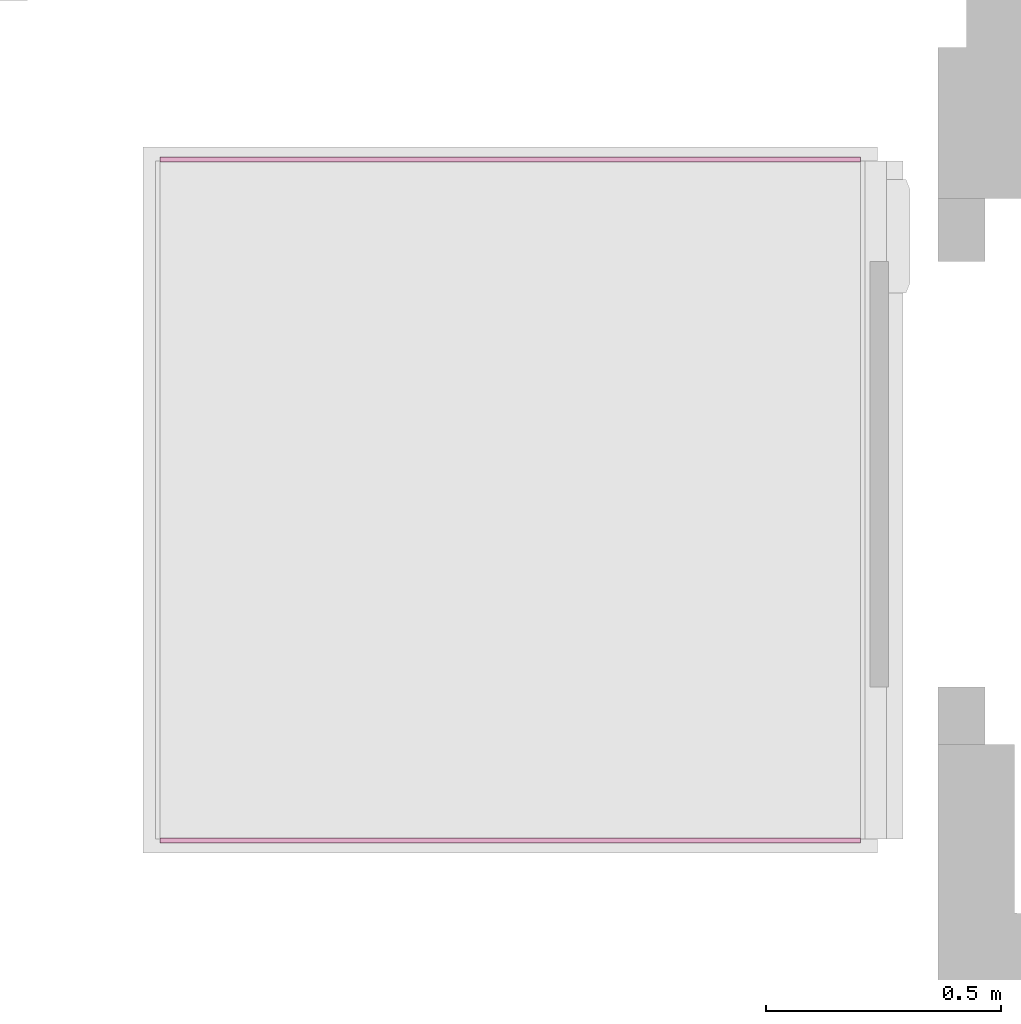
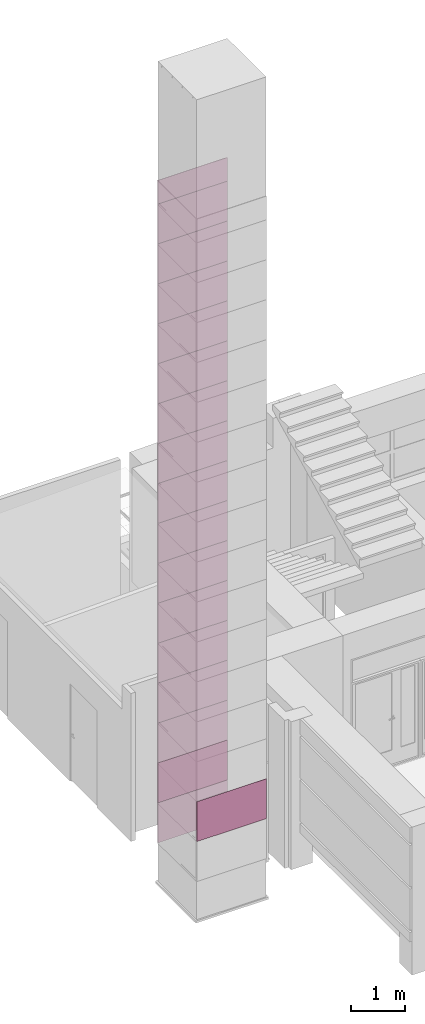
# One storey, part 48 of 49: 19 transport elements.
"""IFC2X3 building model written with IfcOpenShell, lengths in millimetres."""

from ifc_helpers import new_model, entity, si_unit, converted_unit, derived_unit, direction, frame, origin, origin_2d_with_axis, place, context, subcontext, project, spatial, polyline, rectangle, outline, extrude, source, transform, mapped, material, material_list, type_object, type_shapes, element, save


model = new_model("IFC2X3")

# Units and contexts
model_context = context("Model", 3, precision=0.01, world=origin(), true_north=direction((6.12303176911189e-17, 1.0)))
body_context = subcontext(model_context, "Body", "Model", "MODEL_VIEW")
ifc_project = project(units=[si_unit("LENGTHUNIT", "METRE", prefix="MILLI"), si_unit("AREAUNIT", "SQUARE_METRE"), si_unit("VOLUMEUNIT", "CUBIC_METRE"), converted_unit("PLANEANGLEUNIT", "DEGREE", entity("IfcRatioMeasure", 0.0174532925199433), si_unit("PLANEANGLEUNIT", "RADIAN"), dimensions=[0, 0, 0, 0, 0, 0, 0]), si_unit("MASSUNIT", "GRAM", prefix="KILO"), derived_unit("MASSDENSITYUNIT", [(si_unit("MASSUNIT", "GRAM", prefix="KILO"), 1), (si_unit("LENGTHUNIT", "METRE"), -3)]), si_unit("TIMEUNIT", "SECOND"), si_unit("FREQUENCYUNIT", "HERTZ"), si_unit("THERMODYNAMICTEMPERATUREUNIT", "DEGREE_CELSIUS"), derived_unit("THERMALTRANSMITTANCEUNIT", [(si_unit("MASSUNIT", "GRAM", prefix="KILO"), 1), (si_unit("THERMODYNAMICTEMPERATUREUNIT", "KELVIN"), -1), (si_unit("TIMEUNIT", "SECOND"), -3)]), derived_unit("VOLUMETRICFLOWRATEUNIT", [(si_unit("LENGTHUNIT", "METRE"), 3), (si_unit("TIMEUNIT", "SECOND"), -1)]), si_unit("ELECTRICCURRENTUNIT", "AMPERE"), si_unit("ELECTRICVOLTAGEUNIT", "VOLT"), si_unit("POWERUNIT", "WATT"), si_unit("FORCEUNIT", "NEWTON", prefix="KILO"), si_unit("ILLUMINANCEUNIT", "LUX"), si_unit("LUMINOUSFLUXUNIT", "LUMEN"), si_unit("LUMINOUSINTENSITYUNIT", "CANDELA"), derived_unit("USERDEFINED", [(si_unit("MASSUNIT", "GRAM", prefix="KILO"), -1), (si_unit("LENGTHUNIT", "METRE"), -2), (si_unit("TIMEUNIT", "SECOND"), 3), (si_unit("LUMINOUSFLUXUNIT", "LUMEN"), 1)]), derived_unit("LINEARVELOCITYUNIT", [(si_unit("LENGTHUNIT", "METRE"), 1), (si_unit("TIMEUNIT", "SECOND"), -1)]), si_unit("PRESSUREUNIT", "PASCAL"), derived_unit("USERDEFINED", [(si_unit("LENGTHUNIT", "METRE"), -2), (si_unit("MASSUNIT", "GRAM", prefix="KILO"), 1), (si_unit("TIMEUNIT", "SECOND"), -2)])], contexts=[model_context])

# Site, building, storey
site_placement = place(None, frame((-151.875543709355, 2715.0, 0.0)))
site = spatial("IfcSite", under=ifc_project, at=site_placement, Name="Surface", CompositionType="ELEMENT")
building_placement = place(site_placement, origin())
building = spatial("IfcBuilding", under=site, at=building_placement, CompositionType="ELEMENT")
storey_placement = place(building_placement, origin())
storey = spatial("IfcBuildingStorey", under=building, at=storey_placement, Name="1 korrus", CompositionType="ELEMENT", Elevation=3.0969999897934e-10)

# Transport elements
ifc_material_1 = material(Name="Kalea_RAL_9016_Traffic White")
ifc_material_2 = material(Name="Kalea_glass")
ifc_material_list_1 = material_list([ifc_material_1, ifc_material_2])
ifc_material_list_2 = material_list([ifc_material_1, ifc_material_2])
transport_element_type_1 = type_object("IfcTransportElementType", Name="1100x1467 - Standard Height (904 mm)", PredefinedType="NOTDEFINED", material=ifc_material_list_2)
shared_shape_1 = source(origin(), body_context, "Body", "SweptSolid", [
    extrude(outline(polyline([(-452.0, -743.5), (452.0, -743.5), (452.0, 743.5), (-452.0, 743.5), (-452.0, -743.5)]), holes=[polyline([(-402.0, 693.499999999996), (402.0, 693.5), (402.0, -693.50000000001), (-402.0, -693.50000000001), (-402.0, 693.499999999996)])]), frame((743.5, -10.0, 452.0), z_axis=(0.0, 1.0, 0.0), x_axis=(0.0, 0.0, -1.0)), (0.0, 0.0, 1.0), 9.99999999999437),
    extrude(rectangle(XDim=9.99999999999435, YDim=1387.00000000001, at=origin_2d_with_axis()), frame((743.500000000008, -5.0, 50.0), z_axis=(0.0, 0.0, 1.0), x_axis=(0.0, 1.0, 0.0)), (0.0, 0.0, 1.0), 803.999999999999),
])
type_shapes(transport_element_type_1, [shared_shape_1])
transport_element_1_placement = place(storey_placement, frame((-706.883383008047, 6007.97183876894, 949.0), z_axis=(0.0, 0.0, 1.0), x_axis=(-1.0, 0.0, 0.0)))
element("IfcTransportElement", 1, at=transport_element_1_placement, inside=storey, type_object=transport_element_type_1, material=ifc_material_list_1, Name="B-side_Glass Panel:1100x1467 - Standard Height (904 mm)", ObjectType="1100x1467 - Standard Height (904 mm)", CapacityByNumber=0.0, CapacityByWeight=0.0, OperationType="NOTDEFINED", context=body_context, shape_type="MappedRepresentation", body=[
    mapped(shared_shape_1, transform((0.0, 0.0, 0.0), scale=1.0)),
])
ifc_material_list_3 = material_list([ifc_material_1, ifc_material_2])
ifc_material_list_4 = material_list([ifc_material_1, ifc_material_2])
transport_element_type_2 = type_object("IfcTransportElementType", Name="1100x1467 - Standard Height (904 mm)", PredefinedType="NOTDEFINED", material=ifc_material_list_4)
shared_shape_2 = source(origin(), body_context, "Body", "SweptSolid", [
    extrude(outline(polyline([(-452.0, -743.5), (452.0, -743.5), (452.0, 743.5), (-452.0, 743.5), (-452.0, -743.5)]), holes=[polyline([(-402.0, 693.499999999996), (402.0, 693.5), (402.0, -693.50000000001), (-402.0, -693.50000000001), (-402.0, 693.499999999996)])]), frame((743.5, 0.0, 452.0), z_axis=(0.0, 1.0, 0.0), x_axis=(0.0, 0.0, -1.0)), (0.0, 0.0, 1.0), 9.99999999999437),
    extrude(rectangle(XDim=1387.00000000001, YDim=9.99999999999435, at=origin_2d_with_axis()), frame((743.500000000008, 5.0, 50.0), z_axis=(0.0, 0.0, 1.0), x_axis=(-1.0, 0.0, 0.0)), (0.0, 0.0, 1.0), 803.999999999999),
])
type_shapes(transport_element_type_2, [shared_shape_2])
transport_element_2_placement = place(storey_placement, frame((-706.883383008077, 4572.02816123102, 949.0), z_axis=(0.0, 0.0, 1.0), x_axis=(-1.0, 0.0, 0.0)))
element("IfcTransportElement", 2, at=transport_element_2_placement, inside=storey, type_object=transport_element_type_2, material=ifc_material_list_3, Name="B-side_Glass Panel:1100x1467 - Standard Height (904 mm)", ObjectType="1100x1467 - Standard Height (904 mm)", CapacityByNumber=0.0, CapacityByWeight=0.0, OperationType="NOTDEFINED", context=body_context, shape_type="MappedRepresentation", body=[
    mapped(shared_shape_2, transform((0.0, 0.0, 0.0), scale=1.0)),
])
ifc_material_list_5 = material_list([ifc_material_1, ifc_material_2])
transport_element_3_placement = place(storey_placement, frame((-2193.88338300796, 6007.97183876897, 8181.0)))
element("IfcTransportElement", 3, at=transport_element_3_placement, inside=storey, type_object=transport_element_type_2, material=ifc_material_list_5, Name="B-side_Glass Panel:1100x1467 - Standard Height (904 mm)", ObjectType="1100x1467 - Standard Height (904 mm)", CapacityByNumber=0.0, CapacityByWeight=0.0, OperationType="NOTDEFINED", context=body_context, shape_type="MappedRepresentation", body=[
    mapped(shared_shape_2, transform((0.0, 0.0, 0.0), scale=1.0)),
])
ifc_material_list_6 = material_list([ifc_material_1, ifc_material_2])
transport_element_4_placement = place(storey_placement, frame((-2193.88338300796, 6007.97183876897, 9085.0)))
element("IfcTransportElement", 4, at=transport_element_4_placement, inside=storey, type_object=transport_element_type_2, material=ifc_material_list_6, Name="B-side_Glass Panel:1100x1467 - Standard Height (904 mm)", ObjectType="1100x1467 - Standard Height (904 mm)", CapacityByNumber=0.0, CapacityByWeight=0.0, OperationType="NOTDEFINED", context=body_context, shape_type="MappedRepresentation", body=[
    mapped(shared_shape_2, transform((0.0, 0.0, 0.0), scale=1.0)),
])
ifc_material_list_7 = material_list([ifc_material_1, ifc_material_2])
transport_element_5_placement = place(storey_placement, frame((-2193.88338300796, 6007.97183876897, 9989.0)))
element("IfcTransportElement", 5, at=transport_element_5_placement, inside=storey, type_object=transport_element_type_2, material=ifc_material_list_7, Name="B-side_Glass Panel:1100x1467 - Standard Height (904 mm)", ObjectType="1100x1467 - Standard Height (904 mm)", CapacityByNumber=0.0, CapacityByWeight=0.0, OperationType="NOTDEFINED", context=body_context, shape_type="MappedRepresentation", body=[
    mapped(shared_shape_2, transform((0.0, 0.0, 0.0), scale=1.0)),
])
ifc_material_list_8 = material_list([ifc_material_1, ifc_material_2])
transport_element_6_placement = place(storey_placement, frame((-2193.88338300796, 6007.97183876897, 10893.0)))
element("IfcTransportElement", 6, at=transport_element_6_placement, inside=storey, type_object=transport_element_type_2, material=ifc_material_list_8, Name="B-side_Glass Panel:1100x1467 - Standard Height (904 mm)", ObjectType="1100x1467 - Standard Height (904 mm)", CapacityByNumber=0.0, CapacityByWeight=0.0, OperationType="NOTDEFINED", context=body_context, shape_type="MappedRepresentation", body=[
    mapped(shared_shape_2, transform((0.0, 0.0, 0.0), scale=1.0)),
])
ifc_material_list_9 = material_list([ifc_material_1, ifc_material_2])
transport_element_7_placement = place(storey_placement, frame((-2193.88338300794, 6007.97183876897, 11797.0)))
element("IfcTransportElement", 7, at=transport_element_7_placement, inside=storey, type_object=transport_element_type_2, material=ifc_material_list_9, Name="B-side_Glass Panel:1100x1467 - Standard Height (904 mm)", ObjectType="1100x1467 - Standard Height (904 mm)", CapacityByNumber=0.0, CapacityByWeight=0.0, OperationType="NOTDEFINED", context=body_context, shape_type="MappedRepresentation", body=[
    mapped(shared_shape_2, transform((0.0, 0.0, 0.0), scale=1.0)),
])
ifc_material_list_10 = material_list([ifc_material_1, ifc_material_2])
transport_element_8_placement = place(storey_placement, frame((-2193.88338300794, 6007.97183876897, 12701.0)))
element("IfcTransportElement", 8, at=transport_element_8_placement, inside=storey, type_object=transport_element_type_2, material=ifc_material_list_10, Name="B-side_Glass Panel:1100x1467 - Standard Height (904 mm)", ObjectType="1100x1467 - Standard Height (904 mm)", CapacityByNumber=0.0, CapacityByWeight=0.0, OperationType="NOTDEFINED", context=body_context, shape_type="MappedRepresentation", body=[
    mapped(shared_shape_2, transform((0.0, 0.0, 0.0), scale=1.0)),
])
ifc_material_list_11 = material_list([ifc_material_1, ifc_material_2])
transport_element_9_placement = place(storey_placement, frame((-2193.88338300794, 6007.97183876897, 13605.0)))
element("IfcTransportElement", 9, at=transport_element_9_placement, inside=storey, type_object=transport_element_type_2, material=ifc_material_list_11, Name="B-side_Glass Panel:1100x1467 - Standard Height (904 mm)", ObjectType="1100x1467 - Standard Height (904 mm)", CapacityByNumber=0.0, CapacityByWeight=0.0, OperationType="NOTDEFINED", context=body_context, shape_type="MappedRepresentation", body=[
    mapped(shared_shape_2, transform((0.0, 0.0, 0.0), scale=1.0)),
])
ifc_material_list_12 = material_list([ifc_material_1, ifc_material_2])
transport_element_10_placement = place(storey_placement, frame((-2193.88338300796, 6007.97183876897, 45.0)))
element("IfcTransportElement", 10, at=transport_element_10_placement, inside=storey, type_object=transport_element_type_2, material=ifc_material_list_12, Name="B-side_Glass Panel:1100x1467 - Standard Height (904 mm)", ObjectType="1100x1467 - Standard Height (904 mm)", CapacityByNumber=0.0, CapacityByWeight=0.0, OperationType="NOTDEFINED", context=body_context, shape_type="MappedRepresentation", body=[
    mapped(shared_shape_2, transform((0.0, 0.0, 0.0), scale=1.0)),
])
ifc_material_list_13 = material_list([ifc_material_1, ifc_material_2])
transport_element_11_placement = place(storey_placement, frame((-2193.88338300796, 6007.97183876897, 949.0)))
element("IfcTransportElement", 11, at=transport_element_11_placement, inside=storey, type_object=transport_element_type_2, material=ifc_material_list_13, Name="B-side_Glass Panel:1100x1467 - Standard Height (904 mm)", ObjectType="1100x1467 - Standard Height (904 mm)", CapacityByNumber=0.0, CapacityByWeight=0.0, OperationType="NOTDEFINED", context=body_context, shape_type="MappedRepresentation", body=[
    mapped(shared_shape_2, transform((0.0, 0.0, 0.0), scale=1.0)),
])
ifc_material_list_14 = material_list([ifc_material_1, ifc_material_2])
transport_element_12_placement = place(storey_placement, frame((-2193.88338300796, 6007.97183876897, 1853.0)))
element("IfcTransportElement", 12, at=transport_element_12_placement, inside=storey, type_object=transport_element_type_2, material=ifc_material_list_14, Name="B-side_Glass Panel:1100x1467 - Standard Height (904 mm)", ObjectType="1100x1467 - Standard Height (904 mm)", CapacityByNumber=0.0, CapacityByWeight=0.0, OperationType="NOTDEFINED", context=body_context, shape_type="MappedRepresentation", body=[
    mapped(shared_shape_2, transform((0.0, 0.0, 0.0), scale=1.0)),
])
ifc_material_list_15 = material_list([ifc_material_1, ifc_material_2])
transport_element_13_placement = place(storey_placement, frame((-2193.88338300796, 6007.97183876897, 2757.0)))
element("IfcTransportElement", 13, at=transport_element_13_placement, inside=storey, type_object=transport_element_type_2, material=ifc_material_list_15, Name="B-side_Glass Panel:1100x1467 - Standard Height (904 mm)", ObjectType="1100x1467 - Standard Height (904 mm)", CapacityByNumber=0.0, CapacityByWeight=0.0, OperationType="NOTDEFINED", context=body_context, shape_type="MappedRepresentation", body=[
    mapped(shared_shape_2, transform((0.0, 0.0, 0.0), scale=1.0)),
])
ifc_material_list_16 = material_list([ifc_material_1, ifc_material_2])
transport_element_14_placement = place(storey_placement, frame((-2193.88338300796, 6007.97183876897, 3661.0)))
element("IfcTransportElement", 14, at=transport_element_14_placement, inside=storey, type_object=transport_element_type_2, material=ifc_material_list_16, Name="B-side_Glass Panel:1100x1467 - Standard Height (904 mm)", ObjectType="1100x1467 - Standard Height (904 mm)", CapacityByNumber=0.0, CapacityByWeight=0.0, OperationType="NOTDEFINED", context=body_context, shape_type="MappedRepresentation", body=[
    mapped(shared_shape_2, transform((0.0, 0.0, 0.0), scale=1.0)),
])
ifc_material_list_17 = material_list([ifc_material_1, ifc_material_2])
transport_element_15_placement = place(storey_placement, frame((-2193.88338300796, 6007.97183876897, 4565.0)))
element("IfcTransportElement", 15, at=transport_element_15_placement, inside=storey, type_object=transport_element_type_2, material=ifc_material_list_17, Name="B-side_Glass Panel:1100x1467 - Standard Height (904 mm)", ObjectType="1100x1467 - Standard Height (904 mm)", CapacityByNumber=0.0, CapacityByWeight=0.0, OperationType="NOTDEFINED", context=body_context, shape_type="MappedRepresentation", body=[
    mapped(shared_shape_2, transform((0.0, 0.0, 0.0), scale=1.0)),
])
ifc_material_list_18 = material_list([ifc_material_1, ifc_material_2])
transport_element_16_placement = place(storey_placement, frame((-2193.88338300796, 6007.97183876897, 5469.0)))
element("IfcTransportElement", 16, at=transport_element_16_placement, inside=storey, type_object=transport_element_type_2, material=ifc_material_list_18, Name="B-side_Glass Panel:1100x1467 - Standard Height (904 mm)", ObjectType="1100x1467 - Standard Height (904 mm)", CapacityByNumber=0.0, CapacityByWeight=0.0, OperationType="NOTDEFINED", context=body_context, shape_type="MappedRepresentation", body=[
    mapped(shared_shape_2, transform((0.0, 0.0, 0.0), scale=1.0)),
])
ifc_material_list_19 = material_list([ifc_material_1, ifc_material_2])
transport_element_17_placement = place(storey_placement, frame((-2193.88338300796, 6007.97183876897, 6373.0)))
element("IfcTransportElement", 17, at=transport_element_17_placement, inside=storey, type_object=transport_element_type_2, material=ifc_material_list_19, Name="B-side_Glass Panel:1100x1467 - Standard Height (904 mm)", ObjectType="1100x1467 - Standard Height (904 mm)", CapacityByNumber=0.0, CapacityByWeight=0.0, OperationType="NOTDEFINED", context=body_context, shape_type="MappedRepresentation", body=[
    mapped(shared_shape_2, transform((0.0, 0.0, 0.0), scale=1.0)),
])
ifc_material_list_20 = material_list([ifc_material_1, ifc_material_2])
transport_element_18_placement = place(storey_placement, frame((-2193.88338300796, 6007.97183876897, 7277.0)))
element("IfcTransportElement", 18, at=transport_element_18_placement, inside=storey, type_object=transport_element_type_2, material=ifc_material_list_20, Name="B-side_Glass Panel:1100x1467 - Standard Height (904 mm)", ObjectType="1100x1467 - Standard Height (904 mm)", CapacityByNumber=0.0, CapacityByWeight=0.0, OperationType="NOTDEFINED", context=body_context, shape_type="MappedRepresentation", body=[
    mapped(shared_shape_2, transform((0.0, 0.0, 0.0), scale=1.0)),
])
ifc_material_list_21 = material_list([ifc_material_1, ifc_material_2])
ifc_material_list_22 = material_list([ifc_material_1, ifc_material_2])
transport_element_type_3 = type_object("IfcTransportElementType", Name="1100x1467 - 536", PredefinedType="NOTDEFINED", material=ifc_material_list_22)
shared_shape_3 = source(origin(), body_context, "Body", "SweptSolid", [
    extrude(outline(polyline([(-268.0, -743.5), (268.0, -743.5), (268.0, 743.5), (-268.0, 743.5), (-268.0, -743.5)]), holes=[polyline([(-218.0, 693.499999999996), (218.0, 693.5), (218.0, -693.50000000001), (-218.0, -693.50000000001), (-218.0, 693.499999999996)])]), frame((743.5, 0.0, 268.0), z_axis=(0.0, 1.0, 0.0), x_axis=(0.0, 0.0, -1.0)), (0.0, 0.0, 1.0), 9.99999999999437),
    extrude(rectangle(XDim=1387.00000000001, YDim=9.99999999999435, at=origin_2d_with_axis()), frame((743.500000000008, 5.0, 50.0), z_axis=(0.0, 0.0, 1.0), x_axis=(-1.0, 0.0, 0.0)), (0.0, 0.0, 1.0), 436.0),
])
type_shapes(transport_element_type_3, [shared_shape_3])
transport_element_19_placement = place(storey_placement, frame((-2193.88338300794, 6007.97183876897, 14509.0)))
element("IfcTransportElement", 19, at=transport_element_19_placement, inside=storey, type_object=transport_element_type_3, material=ifc_material_list_21, Name="B-side_Glass Panel:1100x1467 - 536", ObjectType="1100x1467 - 536", CapacityByNumber=0.0, CapacityByWeight=0.0, OperationType="NOTDEFINED", context=body_context, shape_type="MappedRepresentation", body=[
    mapped(shared_shape_3, transform((0.0, 0.0, 0.0), scale=1.0)),
])

save(model, "model.ifc")
